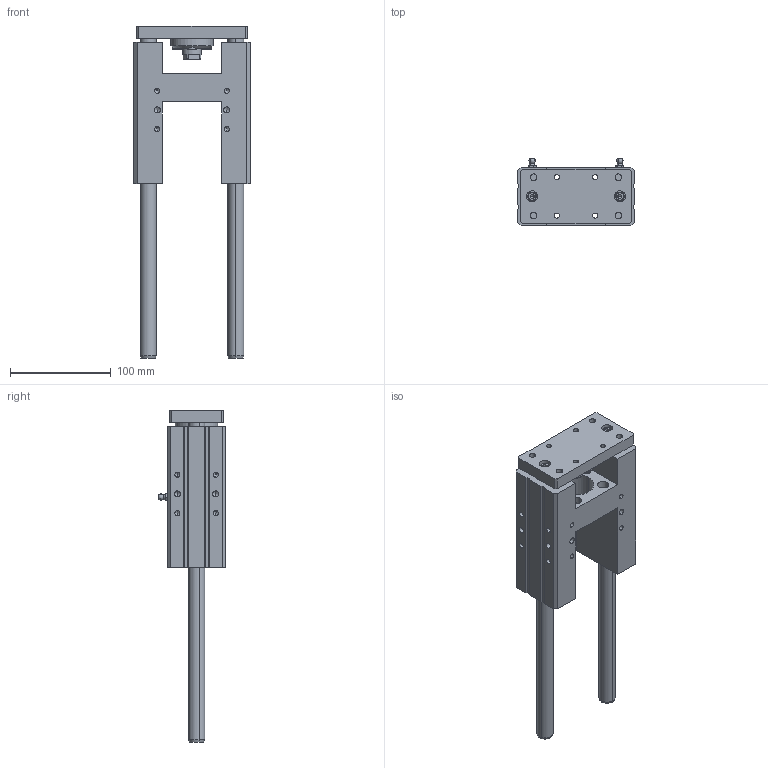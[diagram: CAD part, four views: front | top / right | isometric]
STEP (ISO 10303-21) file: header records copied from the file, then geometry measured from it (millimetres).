
FILE_DESCRIPTION (( 'STEP AP214' ), '1' );
FILE_NAME ('WHCR-040-0160 (3D).STEP', '2018-11-28T13:18:33', ( 'Hidtek' ), ( '' ), 'SwSTEP 2.0', 'SolidWorks 2016', '' );
FILE_SCHEMA (( 'AUTOMOTIVE_DESIGN' ));
Length unit declared in the file: millimetre
Products named in the file (3): Group2^WHCR-040-0160 (3D); WHCR-040-0160 (3D); Group1^WHCR-040-0160 (3D)
Assembly tree (2 placements, depth 2):
  WHCR-040-0160 (3D)
    Group1^WHCR-040-0160 (3D)
    Group2^WHCR-040-0160 (3D)
Bounding box: 115 x 67.1 x 329 mm (x, y, z)
Volume: 665128.5 mm3; surface area: 143154.7 mm2
Topology: 14 solids, 14 shells, 702 faces, 1727 edges, 1074 vertices
Faces by surface type: plane 359, cylinder 148, cone 90, bspline 73, torus 24, sphere 8
Entity records: 26679 total; most frequent: CARTESIAN_POINT 8275, ORIENTED_EDGE 3322, DIRECTION 3215, EDGE_CURVE 1661, AXIS2_PLACEMENT_3D 1080, VERTEX_POINT 1068, VECTOR 1055, LINE 1055
